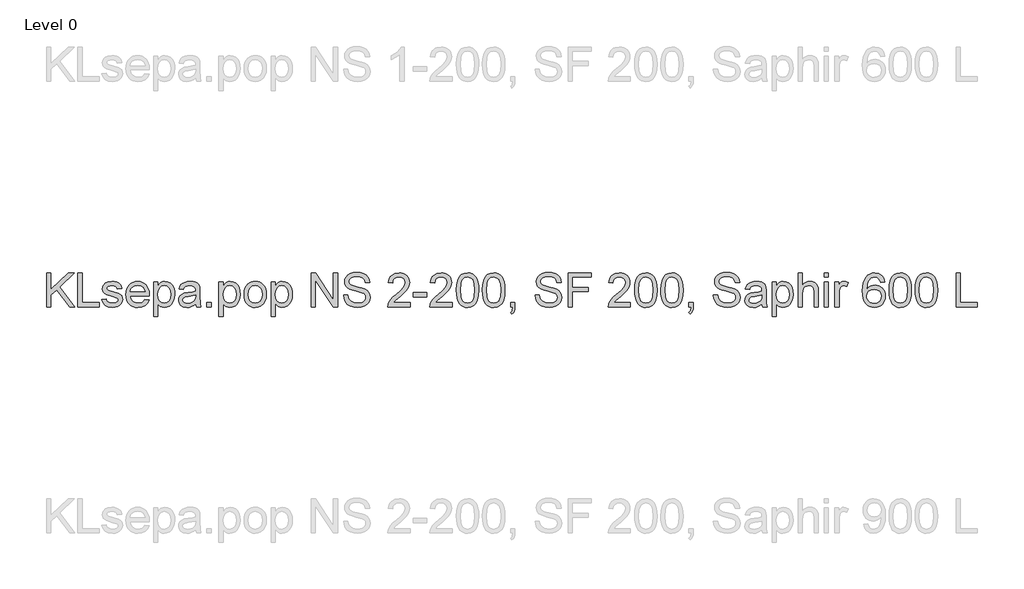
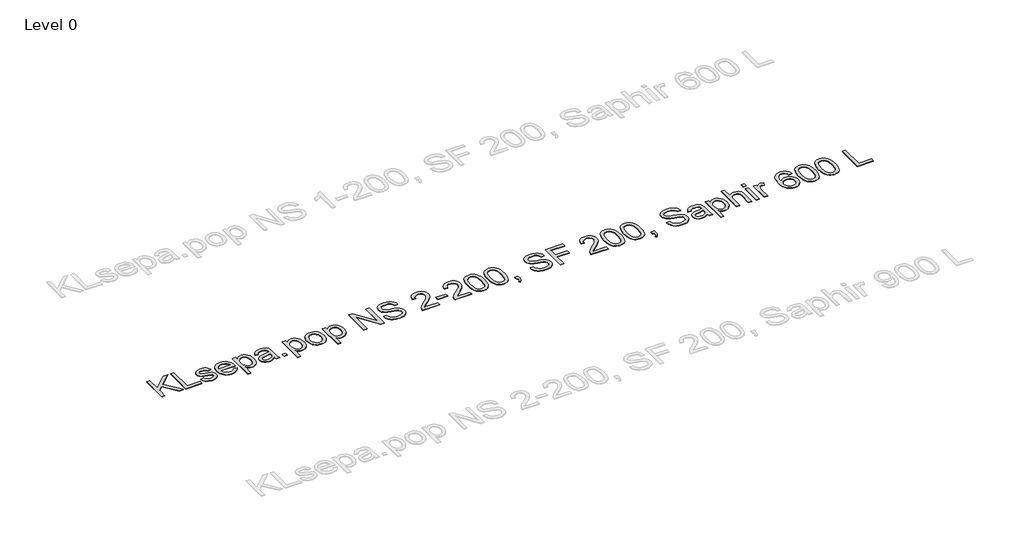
# One storey, part 14 of 15: 1 proxy.
"""IFC4 building model written with IfcOpenShell, lengths in millimetres."""

from ifc_helpers import new_model, si_unit, origin, origin_with_axes, place, context, project, spatial, polyline, outline, extrude, element, save

model = new_model("IFC4")

# Units and contexts
model_context = context("Model", 3, world=origin())
ifc_project = project(units=[si_unit("LENGTHUNIT", "METRE", prefix="MILLI")], contexts=[model_context])

# Site, building, storey
site = spatial("IfcSite", under=ifc_project)
building = spatial("IfcBuilding", under=site)
storey = spatial("IfcBuildingStorey", under=building, Name="Level 0", Elevation=0.0)

# Proxy
placement = place(None, origin())
element("IfcBuildingElementProxy", 1, Name="300mm Arial", ObjectType="300mm Arial", at=placement, inside=storey, context=model_context, shape_type="SweptSolid", body=[
    extrude(outline(polyline([(862.8420262, 8199.0232018), (862.8420262, 8500.3921323), (900.5131425, 8500.3921323), (900.5131425, 8352.8714522), (1055.0235805, 8500.3921323), (1107.7042822, 8500.3921323), (977.9890907, 8376.4894763), (1112.4131718, 8199.0232018), (1066.354346, 8199.0232018), (951.2808579, 8351.0320422), (900.5131425, 8302.6187717), (900.5131425, 8199.0232018), (862.8420262, 8199.0232018)])), origin_with_axes(), (0.0, 0.0, 1.0), 5.0),
    extrude(outline(polyline([(1140.666509, 8199.0232018), (1140.666509, 8500.3921323), (1178.3376253, 8500.3921323), (1178.3376253, 8236.6943181), (1329.0220905, 8236.6943181), (1329.0220905, 8199.0232018), (1140.666509, 8199.0232018)])), origin_with_axes(), (0.0, 0.0, 1.0), 5.0),
    extrude(outline(polyline([(1352.5665382, 8264.9476554), (1390.2376545, 8269.6565449), (1396.1789487, 8253.5433135), (1407.6752611, 8241.6975133), (1424.800168, 8234.4134498), (1447.6272458, 8231.9854286), (1470.1784121, 8234.2111147), (1486.0341261, 8240.8881729), (1495.4151169, 8250.5634693), (1498.5421139, 8261.7838702), (1495.3967228, 8271.3855903), (1485.9605497, 8278.706442), (1447.1857874, 8289.4485962), (1390.4583837, 8307.8794842), (1376.1017888, 8317.1409134), (1365.6999254, 8329.4005809), (1359.3815522, 8343.8767374), (1357.2754277, 8359.7876337), (1358.9676849, 8374.3833519), (1364.0444565, 8387.8570299), (1372.0458899, 8399.675239), (1382.5121326, 8409.3045503), (1406.4612505, 8420.4513747), (1438.8716543, 8425.0498997), (1463.3909893, 8423.2012926), (1484.7097509, 8417.6554716), (1501.8530519, 8408.9550624), (1513.8460049, 8397.642691), (1521.792256, 8382.881426), (1526.7954511, 8363.8343357), (1489.1243348, 8359.1254461), (1484.36946, 8370.9804434), (1474.960878, 8379.9107789), (1460.8066182, 8385.5117822), (1441.8147102, 8387.3787834), (1420.1832489, 8385.5945557), (1405.7622747, 8380.2418726), (1397.6504767, 8372.5163507), (1394.9465441, 8363.6136065), (1399.4347044, 8352.650723), (1413.4877966, 8344.3365899), (1445.9349886, 8336.3167624), (1501.2276525, 8318.5848503), (1515.8325677, 8310.1051703), (1526.9058157, 8298.4984933), (1533.8863766, 8283.7280312), (1536.2132302, 8265.7569957), (1533.4817064, 8247.178955), (1525.2871349, 8229.7045602), (1511.9422156, 8214.7041719), (1493.759648, 8203.5481504), (1471.7970928, 8196.6227718), (1447.112211, 8194.3143123), (1409.128395, 8198.7656844), (1381.4084866, 8212.1198009), (1362.9040223, 8234.2295088), (1352.5665382, 8264.9476554)])), origin_with_axes(), (0.0, 0.0, 1.0), 5.0),
    extrude(outline(polyline([(1733.5451324, 8264.9476554), (1770.4804847, 8260.2387658), (1757.1723536, 8232.4084929), (1735.9363654, 8211.6047661), (1707.2507668, 8198.6369257), (1671.5938044, 8194.3143123), (1648.2195022, 8196.1790141), (1627.3927827, 8201.7731197), (1609.1136461, 8211.0966291), (1593.3820923, 8224.1495421), (1580.7315501, 8240.5685754), (1571.6954486, 8259.9904455), (1566.2737877, 8282.4151523), (1564.4665674, 8307.842696), (1566.2921818, 8334.1324631), (1571.769025, 8357.3044302), (1580.897097, 8377.3585975), (1593.6763978, 8394.2949649), (1609.3665649, 8407.7502488), (1627.2272358, 8417.361166), (1647.2584104, 8423.1277162), (1669.4600889, 8425.0498997), (1690.9466966, 8423.1323148), (1710.3777638, 8417.3795601), (1727.7532903, 8407.7916356), (1743.0732761, 8394.3685413), (1755.5789647, 8377.4689621), (1764.5115994, 8357.451583), (1769.8711802, 8334.3164041), (1771.6577071, 8308.0634252), (1771.4369779, 8297.9098821), (1602.1376837, 8297.9098821), (1608.6583921, 8269.7117272), (1623.8059333, 8248.9815768), (1645.6673208, 8236.2344656), (1672.3295684, 8231.9854286), (1692.3791372, 8233.9535973), (1709.2649207, 8239.8581033), (1722.9869192, 8250.0668287), (1733.5451324, 8264.9476554)]), holes=[polyline([(1602.1376837, 8335.5809984), (1733.9865908, 8335.5809984), (1728.8914252, 8355.4834144), (1718.903429, 8369.7204476), (1696.9408739, 8382.9641994), (1669.3129361, 8387.3787834), (1643.9198813, 8383.8563132), (1622.9230165, 8373.2889029), (1608.3272983, 8356.8169866), (1602.1376837, 8335.5809984)])]), origin_with_axes(), (0.0, 0.0, 1.0), 5.0),
    extrude(outline(polyline([(1809.3288234, 8114.2631901), (1809.3288234, 8420.3410101), (1846.9999397, 8420.3410101), (1846.9999397, 8383.4056578), (1859.2871984, 8401.6250136), (1873.045985, 8414.6388392), (1889.08564, 8422.4471345), (1908.2155037, 8425.0498997), (1933.6913319, 8421.4078679), (1955.9665867, 8410.4817726), (1974.1031691, 8392.9338015), (1987.1629799, 8369.426142), (1995.0540487, 8341.6694455), (1997.6844049, 8311.3743631), (1994.7137578, 8279.1570974), (1985.8018165, 8250.3427401), (1971.2336895, 8226.3936223), (1951.2944854, 8208.7720747), (1928.0719344, 8197.9287529), (1903.653767, 8194.3143123), (1886.3357221, 8196.7331364), (1870.8754812, 8203.9896088), (1857.6409264, 8214.9432952), (1846.9999397, 8228.4537614), (1846.9999397, 8114.2631901), (1809.3288234, 8114.2631901)]), holes=[polyline([(1846.9999397, 8307.9162724), (1851.0742328, 8274.1447052), (1863.2971121, 8250.5266811), (1881.3325269, 8236.6207417), (1902.8444266, 8231.9854286), (1924.7058142, 8236.7862886), (1943.2010815, 8251.1888687), (1955.8102368, 8275.6714155), (1960.0132886, 8310.7121756), (1955.9114044, 8344.2998017), (1943.6057517, 8368.2489196), (1925.597928, 8382.5963174), (1904.389531, 8387.3787834), (1883.0983605, 8382.2928148), (1864.4007581, 8367.034909), (1851.3501443, 8342.0833127), (1846.9999397, 8307.9162724)])]), origin_with_axes(), (0.0, 0.0, 1.0), 5.0),
    extrude(outline(polyline([(2181.3310969, 8227.2765391), (2163.3324703, 8211.8438894), (2144.8004148, 8201.7455286), (2125.3118661, 8196.1721164), (2104.44376, 8194.3143123), (2072.9622582, 8198.7840785), (2049.7397073, 8212.1933772), (2035.4199006, 8232.5556457), (2030.6466317, 8257.8843211), (2032.4492535, 8273.5009117), (2037.8571188, 8287.6827627), (2046.1988431, 8299.8228685), (2056.8030416, 8309.314224), (2083.1801806, 8321.675059), (2115.7745254, 8327.3404417), (2154.2917703, 8333.3001301), (2181.1103677, 8340.289888), (2181.3310969, 8348.6775975), (2178.7375289, 8365.4898046), (2170.9568247, 8376.4894763), (2153.5560063, 8384.6564566), (2129.3125828, 8387.3787834), (2106.8717811, 8385.5669645), (2091.2000081, 8380.131508), (2080.5130362, 8370.0791325), (2073.0266376, 8354.4165566), (2035.3555213, 8359.1254461), (2041.8946237, 8379.7268379), (2051.6526936, 8395.9136456), (2065.540239, 8408.2928748), (2084.4677676, 8417.4715306), (2107.6167422, 8423.1553074), (2134.1686252, 8425.0498997), (2159.6352563, 8423.3760366), (2179.8227808, 8418.3544473), (2195.0438983, 8410.8036694), (2205.6113086, 8401.5422402), (2212.6194606, 8390.0919131), (2217.1628033, 8375.9744415), (2219.0022132, 8343.0122147), (2219.0022132, 8296.1440485), (2220.9151996, 8230.6978416), (2228.4199923, 8199.0232018), (2190.748876, 8199.0232018), (2181.3310969, 8227.2765391)]), holes=[polyline([(2181.3310969, 8302.6187717), (2120.5569913, 8291.067277), (2088.1465876, 8284.9604359), (2073.468096, 8275.027622), (2068.317748, 8260.5330714), (2071.1228482, 8249.3310647), (2079.5381489, 8240.1524089), (2093.3797089, 8234.0271737), (2112.4635874, 8231.9854286), (2132.6970972, 8234.2387058), (2150.5761621, 8240.9985375), (2165.0707128, 8250.9589425), (2175.1506794, 8262.8139398), (2179.6204457, 8275.027622), (2181.1103677, 8291.9501938), (2181.3310969, 8302.6187717)])]), origin_with_axes(), (0.0, 0.0, 1.0), 5.0),
    extrude(outline(polyline([(2280.2177772, 8199.0232018), (2280.2177772, 8236.6943181), (2317.8888936, 8236.6943181), (2317.8888936, 8199.0232018), (2280.2177772, 8199.0232018)])), origin_with_axes(), (0.0, 0.0, 1.0), 5.0),
    extrude(outline(polyline([(2388.5222366, 8114.2631901), (2388.5222366, 8420.3410101), (2426.1933529, 8420.3410101), (2426.1933529, 8383.4056578), (2438.4806116, 8401.6250136), (2452.2393982, 8414.6388392), (2468.2790532, 8422.4471345), (2487.4089169, 8425.0498997), (2512.8847451, 8421.4078679), (2535.1599999, 8410.4817726), (2553.2965823, 8392.9338015), (2566.3563931, 8369.426142), (2574.2474619, 8341.6694455), (2576.8778182, 8311.3743631), (2573.907171, 8279.1570974), (2564.9952297, 8250.3427401), (2550.4271027, 8226.3936223), (2530.4878986, 8208.7720747), (2507.2653476, 8197.9287529), (2482.8471802, 8194.3143123), (2465.5291353, 8196.7331364), (2450.0688944, 8203.9896088), (2436.8343396, 8214.9432952), (2426.1933529, 8228.4537614), (2426.1933529, 8114.2631901), (2388.5222366, 8114.2631901)]), holes=[polyline([(2426.1933529, 8307.9162724), (2430.267646, 8274.1447052), (2442.4905253, 8250.5266811), (2460.5259401, 8236.6207417), (2482.0378398, 8231.9854286), (2503.8992274, 8236.7862886), (2522.3944947, 8251.1888687), (2535.0036501, 8275.6714155), (2539.2067019, 8310.7121756), (2535.1048176, 8344.2998017), (2522.7991649, 8368.2489196), (2504.7913412, 8382.5963174), (2483.5829442, 8387.3787834), (2462.2917737, 8382.2928148), (2443.5941713, 8367.034909), (2430.5435575, 8342.0833127), (2426.1933529, 8307.9162724)])]), origin_with_axes(), (0.0, 0.0, 1.0), 5.0),
    extrude(outline(polyline([(2609.8400449, 8309.682106), (2611.8771915, 8338.3447119), (2617.9886311, 8363.0433894), (2628.1743639, 8383.7781383), (2642.4343897, 8400.5489588), (2656.7909846, 8411.2681204), (2672.6375015, 8418.9246644), (2689.9739405, 8423.5185909), (2708.8003016, 8425.0498997), (2729.5833351, 8423.1851978), (2748.3752073, 8417.5910922), (2765.1759181, 8408.2675829), (2779.9854677, 8395.2146698), (2792.0726905, 8378.8738115), (2800.7064211, 8359.6864662), (2805.8866594, 8337.6526339), (2807.6134055, 8312.7723147), (2804.559985, 8274.7149223), (2795.3997233, 8245.7442152), (2780.3993349, 8224.0483745), (2759.8255344, 8207.8155815), (2735.3889728, 8197.6896296), (2708.8003016, 8194.3143123), (2687.7137655, 8196.1721164), (2668.7471494, 8201.7455286), (2651.9004533, 8211.034549), (2637.1736772, 8224.0391775), (2625.2152131, 8240.538685), (2616.673453, 8260.3123422), (2611.5483969, 8283.3601492), (2609.8400449, 8309.682106)]), holes=[polyline([(2647.5111612, 8309.7556824), (2651.8705629, 8275.6622185), (2664.9487678, 8251.3728097), (2684.6304545, 8236.8322739), (2708.8003016, 8231.9854286), (2732.8597841, 8236.859865), (2752.5046827, 8251.4831743), (2765.5828876, 8276.0944798), (2769.9422892, 8310.9329048), (2765.5552964, 8344.0330873), (2752.3943181, 8367.9914022), (2732.7218284, 8382.5319381), (2708.8003016, 8387.3787834), (2684.6304545, 8382.5503322), (2664.9487678, 8368.0649786), (2651.8705629, 8343.8307522), (2647.5111612, 8309.7556824)])]), origin_with_axes(), (0.0, 0.0, 1.0), 5.0),
    extrude(outline(polyline([(2849.9934114, 8114.2631901), (2849.9934114, 8420.3410101), (2887.6645277, 8420.3410101), (2887.6645277, 8383.4056578), (2899.9517863, 8401.6250136), (2913.7105729, 8414.6388392), (2929.7502279, 8422.4471345), (2948.8800917, 8425.0498997), (2974.3559198, 8421.4078679), (2996.6311747, 8410.4817726), (3014.767757, 8392.9338015), (3027.8275678, 8369.426142), (3035.7186366, 8341.6694455), (3038.3489929, 8311.3743631), (3035.3783458, 8279.1570974), (3026.4664045, 8250.3427401), (3011.8982775, 8226.3936223), (2991.9590733, 8208.7720747), (2968.7365224, 8197.9287529), (2944.3183549, 8194.3143123), (2927.00031, 8196.7331364), (2911.5400692, 8203.9896088), (2898.3055144, 8214.9432952), (2887.6645277, 8228.4537614), (2887.6645277, 8114.2631901), (2849.9934114, 8114.2631901)]), holes=[polyline([(2887.6645277, 8307.9162724), (2891.7388208, 8274.1447052), (2903.9617001, 8250.5266811), (2921.9971149, 8236.6207417), (2943.5090145, 8231.9854286), (2965.3704021, 8236.7862886), (2983.8656694, 8251.1888687), (2996.4748248, 8275.6714155), (3000.6778766, 8310.7121756), (2996.5759924, 8344.2998017), (2984.2703396, 8368.2489196), (2966.262516, 8382.5963174), (2945.0541189, 8387.3787834), (2923.7629485, 8382.2928148), (2905.0653461, 8367.034909), (2892.0147323, 8342.0833127), (2887.6645277, 8307.9162724)])]), origin_with_axes(), (0.0, 0.0, 1.0), 5.0),
    extrude(outline(polyline([(3203.1601267, 8199.0232018), (3203.1601267, 8500.3921323), (3243.4799934, 8500.3921323), (3400.9334874, 8261.6367174), (3400.9334874, 8500.3921323), (3438.6046037, 8500.3921323), (3438.6046037, 8199.0232018), (3398.284737, 8199.0232018), (3240.8312431, 8437.8521931), (3240.8312431, 8199.0232018), (3203.1601267, 8199.0232018)])), origin_with_axes(), (0.0, 0.0, 1.0), 5.0),
    extrude(outline(polyline([(3490.4023886, 8302.6187717), (3528.0735049, 8302.6187717), (3532.3961183, 8281.7138773), (3540.2136107, 8264.9108672), (3552.4088989, 8251.5751448), (3569.8648995, 8241.0721139), (3591.2020553, 8234.2570999), (3615.0408085, 8231.9854286), (3636.0284764, 8233.7052769), (3654.404182, 8238.8648219), (3669.2942058, 8247.0318022), (3679.8248279, 8257.7739565), (3686.0880189, 8270.1072003), (3688.1757492, 8283.0474495), (3686.6122507, 8295.6566049), (3681.9217553, 8306.555109), (3672.3936116, 8315.8533264), (3656.3171684, 8323.6616218), (3601.4659629, 8338.0458078), (3565.4595126, 8347.5647544), (3542.4209027, 8356.6238486), (3523.668118, 8369.2973833), (3510.3783809, 8384.6564566), (3502.459721, 8402.3699747), (3499.8201677, 8422.1068437), (3503.0851204, 8444.1705664), (3512.8799785, 8464.7443669), (3528.9472246, 8482.1819735), (3551.0293414, 8494.8371141), (3577.5352391, 8502.5350449), (3606.8738283, 8505.1010218), (3638.6588326, 8502.4154832), (3666.4707115, 8494.3588675), (3689.3161834, 8481.0967216), (3706.2019669, 8462.7945924), (3716.8889389, 8440.592914), (3721.137976, 8415.6321206), (3683.4668596, 8415.6321206), (3676.5506781, 8438.1097105), (3662.1297039, 8454.3333065), (3639.5969317, 8464.1557557), (3608.3453562, 8467.4299055), (3576.3580168, 8464.1925439), (3554.4138557, 8454.4804593), (3541.7219269, 8440.1882438), (3537.491284, 8423.2104897), (3540.4895222, 8408.7343332), (3549.484237, 8397.090868), (3570.7478163, 8386.6798076), (3610.9941066, 8376.0480179), (3652.5279839, 8365.9496571), (3677.6543241, 8357.1388833), (3699.1294356, 8343.4720672), (3714.1114298, 8326.6046777), (3722.9130066, 8306.7206559), (3725.8468655, 8284.0039427), (3722.4715482, 8260.7813918), (3712.3455963, 8238.9383983), (3695.882877, 8220.1396283), (3673.4972576, 8206.0497479), (3646.5774926, 8197.2481712), (3616.5123365, 8194.3143123), (3579.6045754, 8197.4780974), (3549.2267196, 8206.9694529), (3525.0292814, 8222.8251669), (3506.6627728, 8245.0820276), (3494.8721548, 8272.1949307), (3490.4023886, 8302.6187717)])), origin_with_axes(), (0.0, 0.0, 1.0), 5.0),
    extrude(outline(polyline([(4079.0135809, 8236.6943181), (4079.0135809, 8199.0232018), (3881.2402203, 8199.0232018), (3885.2869222, 8224.9956707), (3894.5759426, 8245.2935598), (3908.1691823, 8264.9844436), (3927.8324749, 8285.5950323), (3955.3316541, 8308.6520364), (3995.9826146, 8344.7596542), (4020.3731908, 8371.4127048), (4032.568479, 8393.0441661), (4036.633575, 8414.0870162), (4032.7984052, 8432.9501655), (4021.2928958, 8448.6311355), (4003.6069689, 8459.1985459), (3981.2305465, 8462.721016), (3957.7320841, 8459.2813193), (3939.4759401, 8448.9622293), (3927.6945192, 8432.5730865), (3923.6202261, 8410.923231), (3885.9491098, 8415.6321206), (3895.0817803, 8452.0708322), (3903.6281389, 8466.6067695), (3914.8278464, 8478.6870946), (3928.4233854, 8488.1830486), (3944.1572385, 8494.9658728), (3982.0398869, 8500.3921323), (4002.2297107, 8498.8838161), (4020.1984469, 8494.3588675), (4035.9460955, 8486.8172866), (4049.4726566, 8476.2590734), (4060.3366718, 8463.465977), (4068.0966827, 8449.2197467), (4072.7526892, 8433.5203826), (4074.3046913, 8416.3678846), (4072.6308282, 8398.3508639), (4067.609239, 8380.6465428), (4058.6972977, 8362.6387192), (4045.3523783, 8343.7111905), (4024.0796019, 8321.114039), (3991.3840896, 8292.0973466), (3948.0475906, 8255.8609701), (3931.0514424, 8236.6943181), (4079.0135809, 8236.6943181)])), origin_with_axes(), (0.0, 0.0, 1.0), 5.0),
    extrude(outline(polyline([(4107.2669181, 8288.492103), (4107.2669181, 8326.1632194), (4224.9891565, 8326.1632194), (4224.9891565, 8288.492103), (4107.2669181, 8288.492103)])), origin_with_axes(), (0.0, 0.0, 1.0), 5.0),
    extrude(outline(polyline([(4451.0158544, 8236.6943181), (4451.0158544, 8199.0232018), (4253.2424938, 8199.0232018), (4257.2891957, 8224.9956707), (4266.5782161, 8245.2935598), (4280.1714558, 8264.9844436), (4299.8347485, 8285.5950323), (4327.3339276, 8308.6520364), (4367.9848881, 8344.7596542), (4392.3754644, 8371.4127048), (4404.5707525, 8393.0441661), (4408.6358485, 8414.0870162), (4404.8006787, 8432.9501655), (4393.2951693, 8448.6311355), (4375.6092424, 8459.1985459), (4353.2328201, 8462.721016), (4329.7343576, 8459.2813193), (4311.4782136, 8448.9622293), (4299.6967927, 8432.5730865), (4295.6224996, 8410.923231), (4257.9513833, 8415.6321206), (4267.0840538, 8452.0708322), (4275.6304124, 8466.6067695), (4286.8301199, 8478.6870946), (4300.4256589, 8488.1830486), (4316.159512, 8494.9658728), (4354.0421605, 8500.3921323), (4374.2319842, 8498.8838161), (4392.2007204, 8494.3588675), (4407.9483691, 8486.8172866), (4421.4749302, 8476.2590734), (4432.3389453, 8463.465977), (4440.0989562, 8449.2197467), (4444.7549627, 8433.5203826), (4446.3069648, 8416.3678846), (4444.6331018, 8398.3508639), (4439.6115125, 8380.6465428), (4430.6995712, 8362.6387192), (4417.3546518, 8343.7111905), (4396.0818755, 8321.114039), (4363.3863631, 8292.0973466), (4320.0498641, 8255.8609701), (4303.0537159, 8236.6943181), (4451.0158544, 8236.6943181)])), origin_with_axes(), (0.0, 0.0, 1.0), 5.0),
    extrude(outline(polyline([(4488.6869707, 8347.2796459), (4491.4552827, 8395.5181725), (4499.7602187, 8433.9894321), (4513.5190054, 8463.282036), (4532.6488691, 8483.9845953), (4557.2877657, 8496.290248), (4587.573651, 8500.3921323), (4610.7870049, 8497.9641111), (4631.5723376, 8490.6800476), (4648.9547619, 8478.8250503), (4661.9593904, 8462.6842278), (4671.7818397, 8442.3955357), (4679.6177262, 8418.0969299), (4684.74968, 8387.2408276), (4686.4603313, 8347.2796459), (4683.7196104, 8299.3170308), (4675.4974478, 8260.9377416), (4661.8214347, 8231.6175466), (4642.7191621, 8210.8322139), (4618.0250831, 8198.4437877), (4587.573651, 8194.3143123), (4566.8251065, 8196.107737), (4548.4310067, 8201.4880112), (4532.3913517, 8210.4551348), (4518.7061415, 8223.0091079), (4505.5727543, 8245.7028285), (4496.1917634, 8273.9791583), (4490.5631689, 8307.8380975), (4488.6869707, 8347.2796459)]), holes=[polyline([(4526.358087, 8347.3532223), (4530.7726709, 8288.0966299), (4536.2909009, 8267.8286312), (4544.0164228, 8253.8008309), (4563.7348977, 8237.4392792), (4587.573651, 8231.9854286), (4611.4124043, 8237.4576733), (4631.1308792, 8253.8744073), (4638.8564011, 8267.9252003), (4644.374631, 8288.1886004), (4648.789215, 8347.3532223), (4644.5217838, 8405.2762424), (4639.1874949, 8425.4775625), (4631.7194904, 8439.8387559), (4612.0378037, 8457.0004509), (4587.1321926, 8462.721016), (4563.5509567, 8457.6810326), (4544.605034, 8442.5610826), (4536.6219947, 8426.9260978), (4530.9198237, 8405.8464595), (4526.358087, 8347.3532223)])]), origin_with_axes(), (0.0, 0.0, 1.0), 5.0),
    extrude(outline(polyline([(4719.4225581, 8347.2796459), (4722.1908701, 8395.5181725), (4730.4958061, 8433.9894321), (4744.2545927, 8463.282036), (4763.3844565, 8483.9845953), (4788.0233531, 8496.290248), (4818.3092384, 8500.3921323), (4841.5225923, 8497.9641111), (4862.307925, 8490.6800476), (4879.6903493, 8478.8250503), (4892.6949778, 8462.6842278), (4902.5174271, 8442.3955357), (4910.3533136, 8418.0969299), (4915.4852674, 8387.2408276), (4917.1959187, 8347.2796459), (4914.4551978, 8299.3170308), (4906.2330352, 8260.9377416), (4892.557022, 8231.6175466), (4873.4547494, 8210.8322139), (4848.7606705, 8198.4437877), (4818.3092384, 8194.3143123), (4797.5606938, 8196.107737), (4779.1665941, 8201.4880112), (4763.1269391, 8210.4551348), (4749.4417289, 8223.0091079), (4736.3083416, 8245.7028285), (4726.9273508, 8273.9791583), (4721.2987562, 8307.8380975), (4719.4225581, 8347.2796459)]), holes=[polyline([(4757.0936744, 8347.3532223), (4761.5082583, 8288.0966299), (4767.0264882, 8267.8286312), (4774.7520101, 8253.8008309), (4794.4704851, 8237.4392792), (4818.3092384, 8231.9854286), (4842.1479917, 8237.4576733), (4861.8664666, 8253.8744073), (4869.5919885, 8267.9252003), (4875.1102184, 8288.1886004), (4879.5248024, 8347.3532223), (4875.2573712, 8405.2762424), (4869.9230823, 8425.4775625), (4862.4550778, 8439.8387559), (4842.773391, 8457.0004509), (4817.86778, 8462.721016), (4794.2865441, 8457.6810326), (4775.3406213, 8442.5610826), (4767.357582, 8426.9260978), (4761.6554111, 8405.8464595), (4757.0936744, 8347.3532223)])]), origin_with_axes(), (0.0, 0.0, 1.0), 5.0),
    extrude(outline(polyline([(4968.9937036, 8199.0232018), (4968.9937036, 8236.6943181), (5006.6648199, 8236.6943181), (5006.6648199, 8199.0232018), (5004.9725627, 8177.474514), (4999.8957912, 8160.5059569), (4991.1401997, 8147.4921313), (4978.4114827, 8137.8076378), (4968.9937036, 8151.9343064), (4977.1606839, 8158.7585174), (4982.8260666, 8168.1946906), (4987.7556853, 8199.0232018), (4968.9937036, 8199.0232018)])), origin_with_axes(), (0.0, 0.0, 1.0), 5.0),
    extrude(outline(polyline([(5185.6026224, 8302.6187717), (5223.2737387, 8302.6187717), (5227.5963521, 8281.7138773), (5235.4138445, 8264.9108672), (5247.6091326, 8251.5751448), (5265.0651333, 8241.0721139), (5286.402289, 8234.2570999), (5310.2410423, 8231.9854286), (5331.2287101, 8233.7052769), (5349.6044158, 8238.8648219), (5364.4944396, 8247.0318022), (5375.0250617, 8257.7739565), (5381.2882526, 8270.1072003), (5383.375983, 8283.0474495), (5381.8124845, 8295.6566049), (5377.121989, 8306.555109), (5367.5938454, 8315.8533264), (5351.5174022, 8323.6616218), (5296.6661967, 8338.0458078), (5260.6597464, 8347.5647544), (5237.6211365, 8356.6238486), (5218.8683518, 8369.2973833), (5205.5786147, 8384.6564566), (5197.6599547, 8402.3699747), (5195.0204014, 8422.1068437), (5198.2853541, 8444.1705664), (5208.0802123, 8464.7443669), (5224.1474584, 8482.1819735), (5246.2295752, 8494.8371141), (5272.7354729, 8502.5350449), (5302.074062, 8505.1010218), (5333.8590664, 8502.4154832), (5361.6709452, 8494.3588675), (5384.5164171, 8481.0967216), (5401.4022007, 8462.7945924), (5412.0891727, 8440.592914), (5416.3382097, 8415.6321206), (5378.6670934, 8415.6321206), (5371.7509119, 8438.1097105), (5357.3299377, 8454.3333065), (5334.7971655, 8464.1557557), (5303.54559, 8467.4299055), (5271.5582505, 8464.1925439), (5249.6140895, 8454.4804593), (5236.9221607, 8440.1882438), (5232.6915177, 8423.2104897), (5235.689756, 8408.7343332), (5244.6844708, 8397.090868), (5265.9480501, 8386.6798076), (5306.1943404, 8376.0480179), (5347.7282176, 8365.9496571), (5372.8545579, 8357.1388833), (5394.3296694, 8343.4720672), (5409.3116636, 8326.6046777), (5418.1132404, 8306.7206559), (5421.0470993, 8284.0039427), (5417.671782, 8260.7813918), (5407.54583, 8238.9383983), (5391.0831108, 8220.1396283), (5368.6974914, 8206.0497479), (5341.7777264, 8197.2481712), (5311.7125703, 8194.3143123), (5274.8048091, 8197.4780974), (5244.4269534, 8206.9694529), (5220.2295151, 8222.8251669), (5201.8630065, 8245.0820276), (5190.0723886, 8272.1949307), (5185.6026224, 8302.6187717)])), origin_with_axes(), (0.0, 0.0, 1.0), 5.0),
    extrude(outline(polyline([(5477.5537737, 8199.0232018), (5477.5537737, 8500.3921323), (5680.0360239, 8500.3921323), (5680.0360239, 8462.721016), (5515.22489, 8462.721016), (5515.22489, 8373.2521147), (5656.4915762, 8373.2521147), (5656.4915762, 8335.5809984), (5515.22489, 8335.5809984), (5515.22489, 8199.0232018), (5477.5537737, 8199.0232018)])), origin_with_axes(), (0.0, 0.0, 1.0), 5.0),
    extrude(outline(polyline([(6028.4938497, 8236.6943181), (6028.4938497, 8199.0232018), (5830.7204891, 8199.0232018), (5834.767191, 8224.9956707), (5844.0562114, 8245.2935598), (5857.6494511, 8264.9844436), (5877.3127438, 8285.5950323), (5904.8119229, 8308.6520364), (5945.4628834, 8344.7596542), (5969.8534597, 8371.4127048), (5982.0487478, 8393.0441661), (5986.1138439, 8414.0870162), (5982.2786741, 8432.9501655), (5970.7731647, 8448.6311355), (5953.0872377, 8459.1985459), (5930.7108154, 8462.721016), (5907.2123529, 8459.2813193), (5888.9562089, 8448.9622293), (5877.174788, 8432.5730865), (5873.1004949, 8410.923231), (5835.4293786, 8415.6321206), (5844.5620492, 8452.0708322), (5853.1084078, 8466.6067695), (5864.3081153, 8478.6870946), (5877.9036542, 8488.1830486), (5893.6375073, 8494.9658728), (5931.5201558, 8500.3921323), (5951.7099795, 8498.8838161), (5969.6787157, 8494.3588675), (5985.4263644, 8486.8172866), (5998.9529255, 8476.2590734), (6009.8169407, 8463.465977), (6017.5769515, 8449.2197467), (6022.232958, 8433.5203826), (6023.7849602, 8416.3678846), (6022.1110971, 8398.3508639), (6017.0895079, 8380.6465428), (6008.1775665, 8362.6387192), (5994.8326471, 8343.7111905), (5973.5598708, 8321.114039), (5940.8643585, 8292.0973466), (5897.5278594, 8255.8609701), (5880.5317112, 8236.6943181), (6028.4938497, 8236.6943181)])), origin_with_axes(), (0.0, 0.0, 1.0), 5.0),
    extrude(outline(polyline([(6066.164966, 8347.2796459), (6068.933278, 8395.5181725), (6077.2382141, 8433.9894321), (6090.9970007, 8463.282036), (6110.1268644, 8483.9845953), (6134.7657611, 8496.290248), (6165.0516463, 8500.3921323), (6188.2650002, 8497.9641111), (6209.0503329, 8490.6800476), (6226.4327572, 8478.8250503), (6239.4373857, 8462.6842278), (6249.259835, 8442.3955357), (6257.0957215, 8418.0969299), (6262.2276753, 8387.2408276), (6263.9383266, 8347.2796459), (6261.1976058, 8299.3170308), (6252.9754432, 8260.9377416), (6239.29943, 8231.6175466), (6220.1971574, 8210.8322139), (6195.5030785, 8198.4437877), (6165.0516463, 8194.3143123), (6144.3031018, 8196.107737), (6125.909002, 8201.4880112), (6109.869347, 8210.4551348), (6096.1841368, 8223.0091079), (6083.0507496, 8245.7028285), (6073.6697587, 8273.9791583), (6068.0411642, 8307.8380975), (6066.164966, 8347.2796459)]), holes=[polyline([(6103.8360823, 8347.3532223), (6108.2506663, 8288.0966299), (6113.7688962, 8267.8286312), (6121.4944181, 8253.8008309), (6141.212893, 8237.4392792), (6165.0516463, 8231.9854286), (6188.8903996, 8237.4576733), (6208.6088745, 8253.8744073), (6216.3343964, 8267.9252003), (6221.8526264, 8288.1886004), (6226.2672103, 8347.3532223), (6221.9997792, 8405.2762424), (6216.6654902, 8425.4775625), (6209.1974857, 8439.8387559), (6189.515799, 8457.0004509), (6164.6101879, 8462.721016), (6141.028952, 8457.6810326), (6122.0830293, 8442.5610826), (6114.09999, 8426.9260978), (6108.3978191, 8405.8464595), (6103.8360823, 8347.3532223)])]), origin_with_axes(), (0.0, 0.0, 1.0), 5.0),
    extrude(outline(polyline([(6296.9005534, 8347.2796459), (6299.6688654, 8395.5181725), (6307.9738014, 8433.9894321), (6321.7325881, 8463.282036), (6340.8624518, 8483.9845953), (6365.5013484, 8496.290248), (6395.7872337, 8500.3921323), (6419.0005876, 8497.9641111), (6439.7859203, 8490.6800476), (6457.1683446, 8478.8250503), (6470.1729731, 8462.6842278), (6479.9954224, 8442.3955357), (6487.8313089, 8418.0969299), (6492.9632627, 8387.2408276), (6494.673914, 8347.2796459), (6491.9331931, 8299.3170308), (6483.7110305, 8260.9377416), (6470.0350174, 8231.6175466), (6450.9327448, 8210.8322139), (6426.2386658, 8198.4437877), (6395.7872337, 8194.3143123), (6375.0386892, 8196.107737), (6356.6445894, 8201.4880112), (6340.6049344, 8210.4551348), (6326.9197242, 8223.0091079), (6313.786337, 8245.7028285), (6304.4053461, 8273.9791583), (6298.7767516, 8307.8380975), (6296.9005534, 8347.2796459)]), holes=[polyline([(6334.5716697, 8347.3532223), (6338.9862536, 8288.0966299), (6344.5044836, 8267.8286312), (6352.2300055, 8253.8008309), (6371.9484804, 8237.4392792), (6395.7872337, 8231.9854286), (6419.625987, 8237.4576733), (6439.3444619, 8253.8744073), (6447.0699838, 8267.9252003), (6452.5882137, 8288.1886004), (6457.0027977, 8347.3532223), (6452.7353665, 8405.2762424), (6447.4010776, 8425.4775625), (6439.9330731, 8439.8387559), (6420.2513864, 8457.0004509), (6395.3457753, 8462.721016), (6371.7645394, 8457.6810326), (6352.8186167, 8442.5610826), (6344.8355774, 8426.9260978), (6339.1334064, 8405.8464595), (6334.5716697, 8347.3532223)])]), origin_with_axes(), (0.0, 0.0, 1.0), 5.0),
    extrude(outline(polyline([(6546.4716989, 8199.0232018), (6546.4716989, 8236.6943181), (6584.1428152, 8236.6943181), (6584.1428152, 8199.0232018), (6582.450558, 8177.474514), (6577.3737865, 8160.5059569), (6568.618195, 8147.4921313), (6555.889478, 8137.8076378), (6546.4716989, 8151.9343064), (6554.6386792, 8158.7585174), (6560.3040619, 8168.1946906), (6565.2336807, 8199.0232018), (6546.4716989, 8199.0232018)])), origin_with_axes(), (0.0, 0.0, 1.0), 5.0),
    extrude(outline(polyline([(6763.0806177, 8302.6187717), (6800.751734, 8302.6187717), (6805.0743474, 8281.7138773), (6812.8918398, 8264.9108672), (6825.087128, 8251.5751448), (6842.5431286, 8241.0721139), (6863.8802844, 8234.2570999), (6887.7190376, 8231.9854286), (6908.7067055, 8233.7052769), (6927.0824111, 8238.8648219), (6941.9724349, 8247.0318022), (6952.503057, 8257.7739565), (6958.766248, 8270.1072003), (6960.8539783, 8283.0474495), (6959.2904798, 8295.6566049), (6954.5999844, 8306.555109), (6945.0718407, 8315.8533264), (6928.9953975, 8323.6616218), (6874.144192, 8338.0458078), (6838.1377417, 8347.5647544), (6815.0991318, 8356.6238486), (6796.3463471, 8369.2973833), (6783.05661, 8384.6564566), (6775.1379501, 8402.3699747), (6772.4983967, 8422.1068437), (6775.7633495, 8444.1705664), (6785.5582076, 8464.7443669), (6801.6254537, 8482.1819735), (6823.7075705, 8494.8371141), (6850.2134682, 8502.5350449), (6879.5520573, 8505.1010218), (6911.3370617, 8502.4154832), (6939.1489406, 8494.3588675), (6961.9944125, 8481.0967216), (6978.880196, 8462.7945924), (6989.567168, 8440.592914), (6993.816205, 8415.6321206), (6956.1450887, 8415.6321206), (6949.2289072, 8438.1097105), (6934.807933, 8454.3333065), (6912.2751608, 8464.1557557), (6881.0235853, 8467.4299055), (6849.0362458, 8464.1925439), (6827.0920848, 8454.4804593), (6814.400156, 8440.1882438), (6810.1695131, 8423.2104897), (6813.1677513, 8408.7343332), (6822.1624661, 8397.090868), (6843.4260454, 8386.6798076), (6883.6723357, 8376.0480179), (6925.2062129, 8365.9496571), (6950.3325532, 8357.1388833), (6971.8076647, 8343.4720672), (6986.7896589, 8326.6046777), (6995.5912357, 8306.7206559), (6998.5250946, 8284.0039427), (6995.1497773, 8260.7813918), (6985.0238254, 8238.9383983), (6968.5611061, 8220.1396283), (6946.1754867, 8206.0497479), (6919.2557217, 8197.2481712), (6889.1905656, 8194.3143123), (6852.2828045, 8197.4780974), (6821.9049487, 8206.9694529), (6797.7075105, 8222.8251669), (6779.3410019, 8245.0820276), (6767.5503839, 8272.1949307), (6763.0806177, 8302.6187717)])), origin_with_axes(), (0.0, 0.0, 1.0), 5.0),
    extrude(outline(polyline([(7191.5895657, 8227.2765391), (7173.590939, 8211.8438894), (7155.0588835, 8201.7455286), (7135.5703348, 8196.1721164), (7114.7022287, 8194.3143123), (7083.2207269, 8198.7840785), (7059.998176, 8212.1933772), (7045.6783693, 8232.5556457), (7040.9051004, 8257.8843211), (7042.7077222, 8273.5009117), (7048.1155875, 8287.6827627), (7056.4573118, 8299.8228685), (7067.0615103, 8309.314224), (7093.4386493, 8321.675059), (7126.0329941, 8327.3404417), (7164.550239, 8333.3001301), (7191.3688365, 8340.289888), (7191.5895657, 8348.6775975), (7188.9959976, 8365.4898046), (7181.2152934, 8376.4894763), (7163.814475, 8384.6564566), (7139.5710515, 8387.3787834), (7117.1302498, 8385.5669645), (7101.4584768, 8380.131508), (7090.7715049, 8370.0791325), (7083.2851063, 8354.4165566), (7045.61399, 8359.1254461), (7052.1530924, 8379.7268379), (7061.9111624, 8395.9136456), (7075.7987077, 8408.2928748), (7094.7262363, 8417.4715306), (7117.8752109, 8423.1553074), (7144.4270939, 8425.0498997), (7169.893725, 8423.3760366), (7190.0812495, 8418.3544473), (7205.302367, 8410.8036694), (7215.8697773, 8401.5422402), (7222.8779293, 8390.0919131), (7227.421272, 8375.9744415), (7229.260682, 8343.0122147), (7229.260682, 8296.1440485), (7231.1736683, 8230.6978416), (7238.678461, 8199.0232018), (7201.0073447, 8199.0232018), (7191.5895657, 8227.2765391)]), holes=[polyline([(7191.5895657, 8302.6187717), (7130.8154601, 8291.067277), (7098.4050563, 8284.9604359), (7083.7265647, 8275.027622), (7078.5762167, 8260.5330714), (7081.3813169, 8249.3310647), (7089.7966176, 8240.1524089), (7103.6381777, 8234.0271737), (7122.7220562, 8231.9854286), (7142.9555659, 8234.2387058), (7160.8346309, 8240.9985375), (7175.3291815, 8250.9589425), (7185.4091481, 8262.8139398), (7189.8789144, 8275.027622), (7191.3688365, 8291.9501938), (7191.5895657, 8302.6187717)])]), origin_with_axes(), (0.0, 0.0, 1.0), 5.0),
    extrude(outline(polyline([(7281.0584669, 8114.2631901), (7281.0584669, 8420.3410101), (7318.7295832, 8420.3410101), (7318.7295832, 8383.4056578), (7331.0168418, 8401.6250136), (7344.7756284, 8414.6388392), (7360.8152834, 8422.4471345), (7379.9451472, 8425.0498997), (7405.4209754, 8421.4078679), (7427.6962302, 8410.4817726), (7445.8328125, 8392.9338015), (7458.8926233, 8369.426142), (7466.7836921, 8341.6694455), (7469.4140484, 8311.3743631), (7466.4434013, 8279.1570974), (7457.53146, 8250.3427401), (7442.963333, 8226.3936223), (7423.0241288, 8208.7720747), (7399.8015779, 8197.9287529), (7375.3834104, 8194.3143123), (7358.0653655, 8196.7331364), (7342.6051247, 8203.9896088), (7329.3705699, 8214.9432952), (7318.7295832, 8228.4537614), (7318.7295832, 8114.2631901), (7281.0584669, 8114.2631901)]), holes=[polyline([(7318.7295832, 8307.9162724), (7322.8038763, 8274.1447052), (7335.0267556, 8250.5266811), (7353.0621704, 8236.6207417), (7374.5740701, 8231.9854286), (7396.4354576, 8236.7862886), (7414.9307249, 8251.1888687), (7427.5398803, 8275.6714155), (7431.7429321, 8310.7121756), (7427.6410479, 8344.2998017), (7415.3353951, 8368.2489196), (7397.3275715, 8382.5963174), (7376.1191744, 8387.3787834), (7354.828004, 8382.2928148), (7336.1304016, 8367.034909), (7323.0797878, 8342.0833127), (7318.7295832, 8307.9162724)])]), origin_with_axes(), (0.0, 0.0, 1.0), 5.0),
    extrude(outline(polyline([(7511.7940543, 8199.0232018), (7511.7940543, 8500.3921323), (7549.4651706, 8500.3921323), (7549.4651706, 8389.5860753), (7563.3021321, 8405.1014985), (7578.8405479, 8416.1839436), (7596.0804179, 8422.8334106), (7615.0217421, 8425.0498997), (7637.7752435, 8422.6310755), (7657.3281715, 8415.3746032), (7672.724033, 8403.8506997), (7683.0063348, 8388.6295821), (7688.8004762, 8367.7154907), (7690.7318567, 8339.1126656), (7690.7318567, 8199.0232018), (7653.0607404, 8199.0232018), (7653.0607404, 8335.2131164), (7650.0625021, 8358.7943523), (7641.0677874, 8374.9443719), (7626.5732368, 8384.2701805), (7607.075491, 8387.3787834), (7591.1553977, 8385.281856), (7576.2101916, 8378.9910739), (7563.8309625, 8369.1134423), (7555.6087999, 8356.2559666), (7551.0010779, 8339.1678479), (7549.4651706, 8316.5982875), (7549.4651706, 8199.0232018), (7511.7940543, 8199.0232018)])), origin_with_axes(), (0.0, 0.0, 1.0), 5.0),
    extrude(outline(polyline([(7742.5296416, 8462.721016), (7742.5296416, 8500.3921323), (7780.2007579, 8500.3921323), (7780.2007579, 8462.721016), (7742.5296416, 8462.721016)])), origin_with_axes(), (0.0, 0.0, 1.0), 5.0),
    extrude(outline(polyline([(7742.5296416, 8199.0232018), (7742.5296416, 8420.3410101), (7780.2007579, 8420.3410101), (7780.2007579, 8199.0232018), (7742.5296416, 8199.0232018)])), origin_with_axes(), (0.0, 0.0, 1.0), 5.0),
    extrude(outline(polyline([(7836.7074324, 8199.0232018), (7836.7074324, 8420.3410101), (7869.6696592, 8420.3410101), (7869.6696592, 8387.5995125), (7881.8465532, 8406.5822235), (7893.0669541, 8417.7658362), (7904.3241431, 8423.2288838), (7916.6114017, 8425.0498997), (7935.3733835, 8422.1436319), (7954.4296709, 8413.4248286), (7941.8481066, 8379.6532615), (7928.6043548, 8385.4474029), (7915.360603, 8387.3787834), (7904.112611, 8385.5209793), (7894.0602354, 8379.947567), (7885.9392404, 8371.081611), (7880.4853898, 8359.3461753), (7875.905259, 8338.3033252), (7874.3785487, 8315.3474887), (7874.3785487, 8199.0232018), (7836.7074324, 8199.0232018)])), origin_with_axes(), (0.0, 0.0, 1.0), 5.0),
    extrude(outline(polyline([(8279.343049, 8420.3410101), (8241.6719327, 8415.6321206), (8235.6018798, 8434.3021318), (8227.3981113, 8447.049243), (8210.3099926, 8458.8030727), (8189.6534186, 8462.721016), (8172.1422356, 8460.4401476), (8155.6611222, 8453.5975425), (8141.5068624, 8439.1857653), (8129.9461708, 8419.3477287), (8122.1378754, 8391.2875296), (8119.2408047, 8352.2092646), (8134.3515576, 8369.8400092), (8152.4605489, 8382.2652236), (8172.5561028, 8389.6320606), (8193.6265441, 8392.0876729), (8211.7263383, 8390.4092113), (8228.4281809, 8385.3738265), (8243.7320719, 8376.9815185), (8257.6380113, 8365.2322872), (8269.1941045, 8350.8251086), (8277.4484567, 8334.4589583), (8282.4010681, 8316.1338365), (8284.0519385, 8295.849743), (8280.9433357, 8268.8747957), (8271.6175271, 8243.868017), (8256.847065, 8222.65962), (8237.4045015, 8207.0798175), (8214.1727535, 8197.5056886), (8188.0347378, 8194.3143123), (8165.5778412, 8196.4296338), (8145.296047, 8202.7755982), (8127.189355, 8213.3522055), (8111.2577654, 8228.1594558), (8098.2692317, 8247.8227485), (8088.9917076, 8272.9674829), (8083.4251932, 8303.593659), (8081.5696884, 8339.7012768), (8083.6298276, 8380.1820918), (8089.8102451, 8414.7308097), (8100.1109409, 8443.3474304), (8114.5319152, 8466.0319539), (8130.1623014, 8481.0645319), (8148.2850882, 8491.8020877), (8168.9002755, 8498.2446211), (8192.0078633, 8500.3921323), (8225.0620606, 8495.0762374), (8251.5311702, 8479.1285529), (8270.0724227, 8453.7998776), (8279.343049, 8420.3410101)]), holes=[polyline([(8119.2408047, 8296.4383541), (8121.4205055, 8279.7457086), (8127.959608, 8263.8072212), (8138.113151, 8250.1036169), (8151.1361737, 8240.1156207), (8166.8539319, 8234.0179766), (8185.0916818, 8231.9854286), (8209.9513077, 8236.1976774), (8229.4950386, 8248.834424), (8242.1593763, 8268.7000517), (8246.3808222, 8294.5989442), (8242.2145586, 8319.45857), (8229.7157678, 8338.4136898), (8209.8409431, 8350.4158399), (8183.5465774, 8354.4165566), (8158.7237398, 8350.4158399), (8137.9659982, 8338.4136898), (8123.9221031, 8319.9184225), (8119.2408047, 8296.4383541)])]), origin_with_axes(), (0.0, 0.0, 1.0), 5.0),
    extrude(outline(polyline([(8317.0141653, 8347.2796459), (8319.7824773, 8395.5181725), (8328.0874134, 8433.9894321), (8341.8462, 8463.282036), (8360.9760637, 8483.9845953), (8385.6149603, 8496.290248), (8415.9008456, 8500.3921323), (8439.1141995, 8497.9641111), (8459.8995322, 8490.6800476), (8477.2819565, 8478.8250503), (8490.286585, 8462.6842278), (8500.1090343, 8442.3955357), (8507.9449208, 8418.0969299), (8513.0768746, 8387.2408276), (8514.7875259, 8347.2796459), (8512.046805, 8299.3170308), (8503.8246424, 8260.9377416), (8490.1486293, 8231.6175466), (8471.0463567, 8210.8322139), (8446.3522778, 8198.4437877), (8415.9008456, 8194.3143123), (8395.1523011, 8196.107737), (8376.7582013, 8201.4880112), (8360.7185463, 8210.4551348), (8347.0333361, 8223.0091079), (8333.8999489, 8245.7028285), (8324.518958, 8273.9791583), (8318.8903635, 8307.8380975), (8317.0141653, 8347.2796459)]), holes=[polyline([(8354.6852816, 8347.3532223), (8359.0998655, 8288.0966299), (8364.6180955, 8267.8286312), (8372.3436174, 8253.8008309), (8392.0620923, 8237.4392792), (8415.9008456, 8231.9854286), (8439.7395989, 8237.4576733), (8459.4580738, 8253.8744073), (8467.1835957, 8267.9252003), (8472.7018257, 8288.1886004), (8477.1164096, 8347.3532223), (8472.8489785, 8405.2762424), (8467.5146895, 8425.4775625), (8460.046685, 8439.8387559), (8440.3649983, 8457.0004509), (8415.4593872, 8462.721016), (8391.8781513, 8457.6810326), (8372.9322286, 8442.5610826), (8364.9491893, 8426.9260978), (8359.2470183, 8405.8464595), (8354.6852816, 8347.3532223)])]), origin_with_axes(), (0.0, 0.0, 1.0), 5.0),
    extrude(outline(polyline([(8547.7497527, 8347.2796459), (8550.5180647, 8395.5181725), (8558.8230007, 8433.9894321), (8572.5817873, 8463.282036), (8591.7116511, 8483.9845953), (8616.3505477, 8496.290248), (8646.636433, 8500.3921323), (8669.8497869, 8497.9641111), (8690.6351196, 8490.6800476), (8708.0175439, 8478.8250503), (8721.0221724, 8462.6842278), (8730.8446217, 8442.3955357), (8738.6805082, 8418.0969299), (8743.812462, 8387.2408276), (8745.5231133, 8347.2796459), (8742.7823924, 8299.3170308), (8734.5602298, 8260.9377416), (8720.8842167, 8231.6175466), (8701.7819441, 8210.8322139), (8677.0878651, 8198.4437877), (8646.636433, 8194.3143123), (8625.8878884, 8196.107737), (8607.4937887, 8201.4880112), (8591.4541337, 8210.4551348), (8577.7689235, 8223.0091079), (8564.6355363, 8245.7028285), (8555.2545454, 8273.9791583), (8549.6259508, 8307.8380975), (8547.7497527, 8347.2796459)]), holes=[polyline([(8585.420869, 8347.3532223), (8589.8354529, 8288.0966299), (8595.3536828, 8267.8286312), (8603.0792047, 8253.8008309), (8622.7976797, 8237.4392792), (8646.636433, 8231.9854286), (8670.4751863, 8237.4576733), (8690.1936612, 8253.8744073), (8697.9191831, 8267.9252003), (8703.437413, 8288.1886004), (8707.851997, 8347.3532223), (8703.5845658, 8405.2762424), (8698.2502769, 8425.4775625), (8690.7822724, 8439.8387559), (8671.1005857, 8457.0004509), (8646.1949746, 8462.721016), (8622.6137387, 8457.6810326), (8603.6678159, 8442.5610826), (8595.6847766, 8426.9260978), (8589.9826057, 8405.8464595), (8585.420869, 8347.3532223)])]), origin_with_axes(), (0.0, 0.0, 1.0), 5.0),
    extrude(outline(polyline([(8910.3342471, 8199.0232018), (8910.3342471, 8500.3921323), (8948.0053634, 8500.3921323), (8948.0053634, 8236.6943181), (9098.6898287, 8236.6943181), (9098.6898287, 8199.0232018), (8910.3342471, 8199.0232018)])), origin_with_axes(), (0.0, 0.0, 1.0), 5.0),
])

save(model, "model.ifc")
